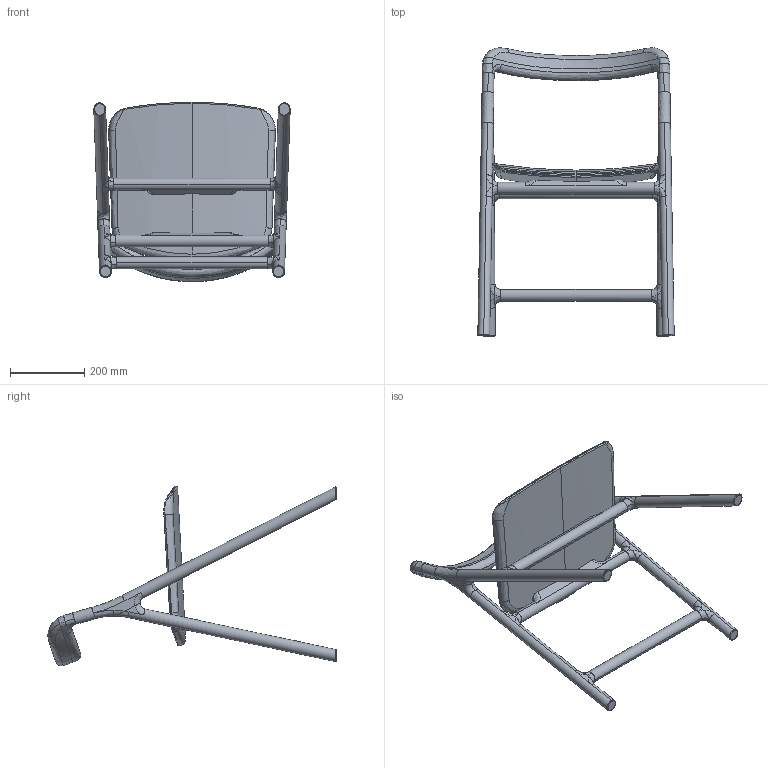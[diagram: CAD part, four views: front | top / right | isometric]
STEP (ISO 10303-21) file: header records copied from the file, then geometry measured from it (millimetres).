
FILE_DESCRIPTION (( 'STEP AP203' ), '1' );
FILE_NAME ('MARSHALL chair.STEP', '2020-07-08T10:46:07', ( '' ), ( '' ), 'SwSTEP 2.0', 'SolidWorks 2020', '' );
FILE_SCHEMA (( 'CONFIG_CONTROL_DESIGN' ));
Length unit declared in the file: millimetre
Products named in the file (1): MARSHALL chair
Bounding box: 529.76 x 778.06 x 484.68 mm (x, y, z)
Volume: 10621733.4 mm3; surface area: 1153564.1 mm2
Topology: 5 solids, 5 shells, 412 faces, 1205 edges, 812 vertices
Faces by surface type: bspline 180, plane 135, cylinder 74, torus 23
Entity records: 43280 total; most frequent: CARTESIAN_POINT 34860, ORIENTED_EDGE 2410, EDGE_CURVE 1205, DIRECTION 831, VERTEX_POINT 812, B_SPLINE_CURVE_WITH_KNOTS 754, EDGE_LOOP 421, FACE_OUTER_BOUND 412
